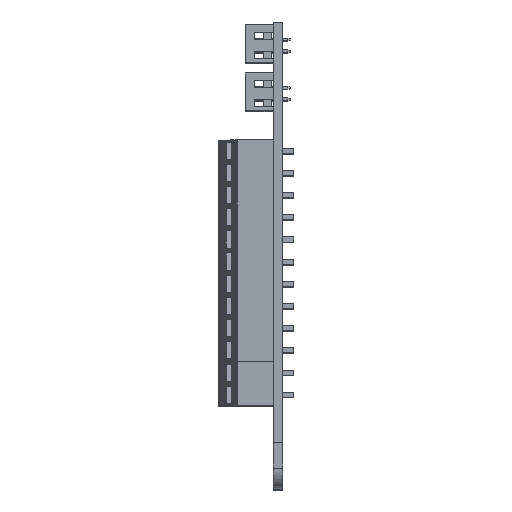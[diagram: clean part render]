
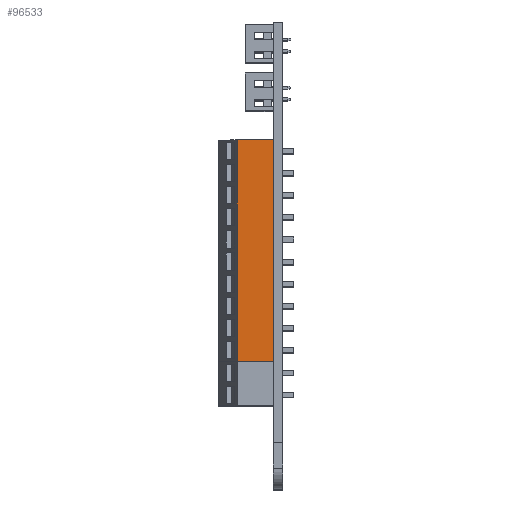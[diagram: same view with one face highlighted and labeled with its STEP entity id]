
A CAD part, top view. The second image highlights one B-rep face of the part: STEP entity #96533.
In plain terms, the highlighted planar face has unit normal (0, 0, 1).
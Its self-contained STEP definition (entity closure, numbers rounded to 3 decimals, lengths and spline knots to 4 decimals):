
#1666=DIRECTION('',(0.,1.,0.));
#1667=VECTOR('',#1666,1.5);
#1668=CARTESIAN_POINT('',(0.,3.6238,3.6675));
#1669=LINE('',#1668,#1667);
#31889=DIRECTION('',(1.,0.,0.));
#31890=VECTOR('',#31889,0.2461);
#31891=CARTESIAN_POINT('',(-0.2461,3.6238,
3.6675));
#31892=LINE('',#31891,#31890);
#31893=DIRECTION('',(1.,0.,0.));
#31894=VECTOR('',#31893,0.2461);
#31895=CARTESIAN_POINT('',(-0.2461,5.1238,
3.6675));
#31896=LINE('',#31895,#31894);
#31909=DIRECTION('',(0.,1.,0.));
#31910=VECTOR('',#31909,1.5);
#31911=CARTESIAN_POINT('',(-0.2461,3.6238,
3.6675));
#31912=LINE('',#31911,#31910);
#45611=CARTESIAN_POINT('',(-0.2461,3.6238,
3.6675));
#45612=VERTEX_POINT('',#45611);
#45617=CARTESIAN_POINT('',(-0.2461,5.1238,
3.6675));
#45618=VERTEX_POINT('',#45617);
#45939=CARTESIAN_POINT('',(0.,3.6238,3.6675));
#45941=VERTEX_POINT('',#45939);
#45943=CARTESIAN_POINT('',(0.,5.1238,3.6675));
#45945=VERTEX_POINT('',#45943);
#96521=CARTESIAN_POINT('',(-0.2461,3.6238,
3.6675));
#96522=DIRECTION('',(0.,0.,1.));
#96523=DIRECTION('',(1.,0.,0.));
#96524=AXIS2_PLACEMENT_3D('',#96521,#96522,#96523);
#96525=PLANE('',#96524);
#96526=ORIENTED_EDGE('',*,*,#47412,.F.);
#96527=ORIENTED_EDGE('',*,*,#96486,.F.);
#96529=ORIENTED_EDGE('',*,*,#96528,.T.);
#96530=ORIENTED_EDGE('',*,*,#96511,.T.);
#96531=EDGE_LOOP('',(#96526,#96527,#96529,#96530));
#96532=FACE_OUTER_BOUND('',#96531,.F.);
#96533=ADVANCED_FACE('',(#96532),#96525,.T.);
#47412=EDGE_CURVE('',#45941,#45945,#1669,.T.);
#96486=EDGE_CURVE('',#45612,#45941,#31892,.T.);
#96511=EDGE_CURVE('',#45618,#45945,#31896,.T.);
#96528=EDGE_CURVE('',#45612,#45618,#31912,.T.);
